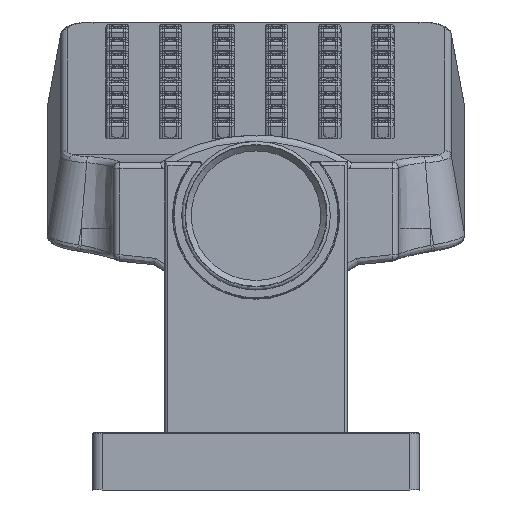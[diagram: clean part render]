
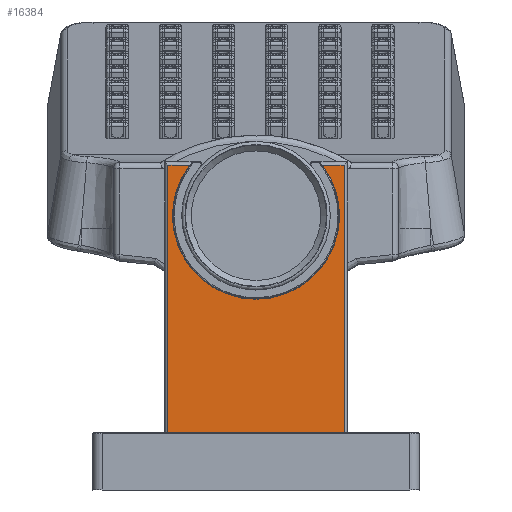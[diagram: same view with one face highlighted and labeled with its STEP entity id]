
A CAD part, front view. The second image highlights one B-rep face of the part: STEP entity #16384.
In plain terms, the highlighted planar face has unit normal (0, -1, 0).
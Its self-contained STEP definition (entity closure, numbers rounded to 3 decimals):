
#1015=FACE_OUTER_BOUND('',#2107,.T.);
#2107=EDGE_LOOP('',(#10386,#10387,#10388,#10389,#10390,#10391));
#3305=CIRCLE('',#17531,12.9);
#4355=LINE('',#25063,#5495);
#4371=LINE('',#25127,#5511);
#4372=LINE('',#25129,#5512);
#4373=LINE('',#25133,#5513);
#4374=LINE('',#25134,#5514);
#5495=VECTOR('',#19650,10.);
#5511=VECTOR('',#19732,10.);
#5512=VECTOR('',#19733,10.);
#5513=VECTOR('',#19736,10.);
#5514=VECTOR('',#19737,10.);
#6643=VERTEX_POINT('',#25061);
#6644=VERTEX_POINT('',#25062);
#6659=VERTEX_POINT('',#25126);
#6660=VERTEX_POINT('',#25128);
#6661=VERTEX_POINT('',#25130);
#6662=VERTEX_POINT('',#25132);
#7990=EDGE_CURVE('',#6643,#6644,#4355,.T.);
#8022=EDGE_CURVE('',#6644,#6659,#4371,.T.);
#8023=EDGE_CURVE('',#6660,#6659,#4372,.T.);
#8024=EDGE_CURVE('',#6661,#6660,#3305,.T.);
#8025=EDGE_CURVE('',#6662,#6661,#4373,.T.);
#8026=EDGE_CURVE('',#6643,#6662,#4374,.T.);
#10386=ORIENTED_EDGE('',*,*,#7990,.T.);
#10387=ORIENTED_EDGE('',*,*,#8022,.T.);
#10388=ORIENTED_EDGE('',*,*,#8023,.F.);
#10389=ORIENTED_EDGE('',*,*,#8024,.F.);
#10390=ORIENTED_EDGE('',*,*,#8025,.F.);
#10391=ORIENTED_EDGE('',*,*,#8026,.F.);
#14952=PLANE('',#17530);
#16384=ADVANCED_FACE('',(#1015),#14952,.T.);
#17530=AXIS2_PLACEMENT_3D('',#25125,#19730,#19731);
#17531=AXIS2_PLACEMENT_3D('',#25131,#19734,#19735);
#19650=DIRECTION('',(1.,0.,0.));
#19730=DIRECTION('center_axis',(0.,-1.,0.));
#19731=DIRECTION('ref_axis',(0.,0.,-1.));
#19732=DIRECTION('',(0.,0.,1.));
#19733=DIRECTION('',(1.,0.,0.));
#19734=DIRECTION('center_axis',(0.,-1.,0.));
#19735=DIRECTION('ref_axis',(0.796,0.,0.605));
#19736=DIRECTION('',(1.,0.,0.));
#19737=DIRECTION('',(0.,0.,1.));
#25061=CARTESIAN_POINT('',(-13.6,-13.6,8.9));
#25062=CARTESIAN_POINT('',(13.6,-13.6,8.9));
#25063=CARTESIAN_POINT('',(-13.6,-13.6,8.9));
#25125=CARTESIAN_POINT('Origin',(0.,-13.6,8.9));
#25126=CARTESIAN_POINT('',(13.6,-13.6,50.15));
#25127=CARTESIAN_POINT('',(13.6,-13.6,8.9));
#25128=CARTESIAN_POINT('',(10.275,-13.6,50.15));
#25129=CARTESIAN_POINT('',(10.275,-13.6,50.15));
#25130=CARTESIAN_POINT('',(-10.275,-13.6,50.15));
#25131=CARTESIAN_POINT('Origin',(0.,-13.6,42.35));
#25132=CARTESIAN_POINT('',(-13.6,-13.6,50.15));
#25133=CARTESIAN_POINT('',(-13.6,-13.6,50.15));
#25134=CARTESIAN_POINT('',(-13.6,-13.6,8.9));
